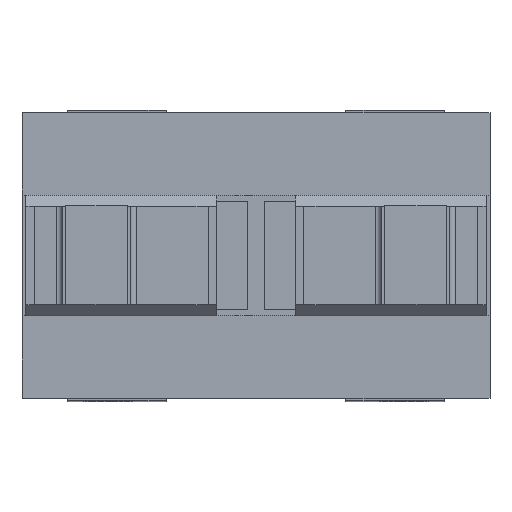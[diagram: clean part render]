
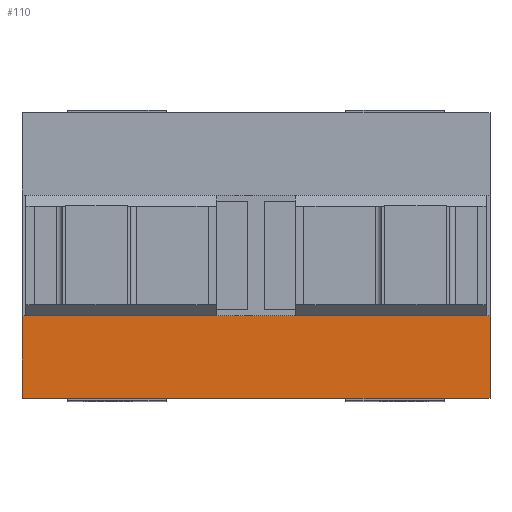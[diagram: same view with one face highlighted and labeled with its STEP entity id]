
A CAD part, top view. The second image highlights one B-rep face of the part: STEP entity #110.
In plain terms, the highlighted planar face has unit normal (0, 0, 1).
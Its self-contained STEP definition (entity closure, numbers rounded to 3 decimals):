
#110 = ADVANCED_FACE ( 'NONE', ( #2156 ), #1637, .F. ) ;
#235 = VECTOR ( 'NONE', #1703, 1000. ) ;
#331 = LINE ( 'NONE', #5252, #2771 ) ;
#581 = EDGE_LOOP ( 'NONE', ( #845, #3075, #5415, #5492 ) ) ;
#685 = DIRECTION ( 'NONE',  ( -1., 0., 0. ) ) ;
#845 = ORIENTED_EDGE ( 'NONE', *, *, #3759, .T. ) ;
#861 = VECTOR ( 'NONE', #2415, 1000. ) ;
#1603 = CARTESIAN_POINT ( 'NONE',  ( 19., -11.6, 50. ) ) ;
#1637 = PLANE ( 'NONE',  #5223 ) ;
#1703 = DIRECTION ( 'NONE',  ( -1., 0., 0. ) ) ;
#2156 = FACE_OUTER_BOUND ( 'NONE', #581, .T. ) ;
#2408 = VERTEX_POINT ( 'NONE', #3433 ) ;
#2415 = DIRECTION ( 'NONE',  ( 0., -1., 0. ) ) ;
#2533 = LINE ( 'NONE', #3460, #6124 ) ;
#2549 = EDGE_CURVE ( 'NONE', #6166, #2861, #2533, .T. ) ;
#2771 = VECTOR ( 'NONE', #5184, 1000. ) ;
#2861 = VERTEX_POINT ( 'NONE', #3929 ) ;
#3075 = ORIENTED_EDGE ( 'NONE', *, *, #4980, .F. ) ;
#3433 = CARTESIAN_POINT ( 'NONE',  ( -19., -11.6, 50. ) ) ;
#3460 = CARTESIAN_POINT ( 'NONE',  ( 19., -4.9, 50. ) ) ;
#3482 = CARTESIAN_POINT ( 'NONE',  ( 19., -4.9, 50. ) ) ;
#3549 = EDGE_CURVE ( 'NONE', #6166, #5716, #331, .T. ) ;
#3759 = EDGE_CURVE ( 'NONE', #2861, #2408, #4327, .T. ) ;
#3929 = CARTESIAN_POINT ( 'NONE',  ( -19., -4.9, 50. ) ) ;
#4103 = CARTESIAN_POINT ( 'NONE',  ( 19., -4.9, 50. ) ) ;
#4327 = LINE ( 'NONE', #4834, #861 ) ;
#4834 = CARTESIAN_POINT ( 'NONE',  ( -19., -4.9, 50. ) ) ;
#4980 = EDGE_CURVE ( 'NONE', #5716, #2408, #6068, .T. ) ;
#5184 = DIRECTION ( 'NONE',  ( 0., -1., 0. ) ) ;
#5223 = AXIS2_PLACEMENT_3D ( 'NONE', #4103, #5531, #5502 ) ;
#5252 = CARTESIAN_POINT ( 'NONE',  ( 19., -4.9, 50. ) ) ;
#5415 = ORIENTED_EDGE ( 'NONE', *, *, #3549, .F. ) ;
#5463 = CARTESIAN_POINT ( 'NONE',  ( 19., -11.6, 50. ) ) ;
#5492 = ORIENTED_EDGE ( 'NONE', *, *, #2549, .T. ) ;
#5502 = DIRECTION ( 'NONE',  ( -1., 0., 0. ) ) ;
#5531 = DIRECTION ( 'NONE',  ( 0., 0., -1. ) ) ;
#5716 = VERTEX_POINT ( 'NONE', #5463 ) ;
#6068 = LINE ( 'NONE', #1603, #235 ) ;
#6124 = VECTOR ( 'NONE', #685, 1000. ) ;
#6166 = VERTEX_POINT ( 'NONE', #3482 ) ;
